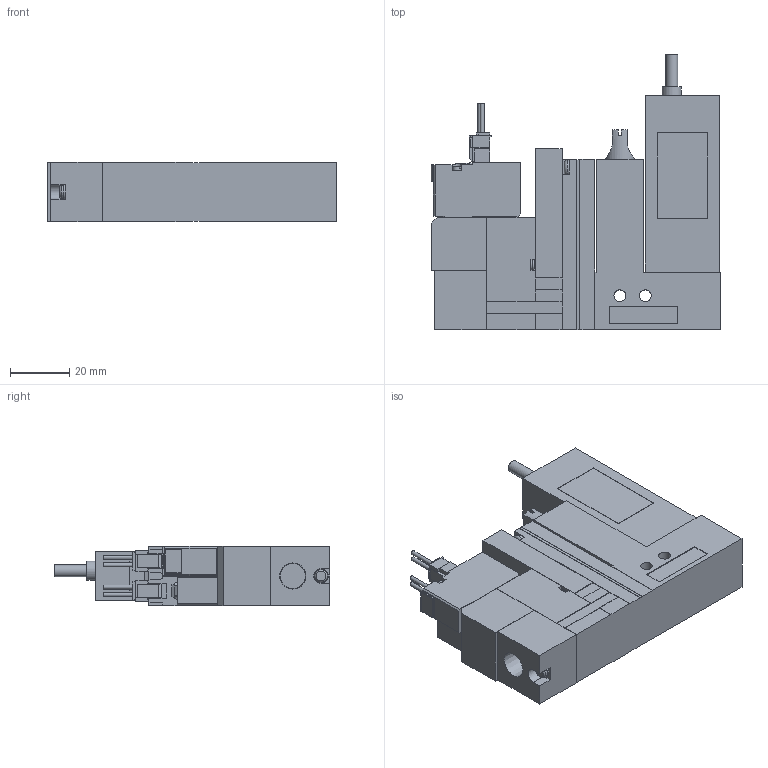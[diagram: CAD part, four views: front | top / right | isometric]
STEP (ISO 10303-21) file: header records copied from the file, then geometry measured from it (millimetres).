
FILE_DESCRIPTION(('STEP AP203'),'1');
FILE_NAME('VG_VGPLC5ALR.stp','2025-02-17T00:19:02',(' '),(' '),'Spatial InterOp 3D',' ',' ');
FILE_SCHEMA(('CONFIG_CONTROL_DESIGN'));
Length unit declared in the file: millimetre
Products named in the file (5): BMC22S※※※※VG_VGPLC5ALR; Solenoid valve A; Pressure sensor VGLC; Unit LC; Base SR10R
Assembly tree (4 placements, depth 2):
  BMC22S※※※※VG_VGPLC5ALR
    Solenoid valve A
    Pressure sensor VGLC
    Unit LC
    Base SR10R
Bounding box: 97.6 x 93 x 20 mm (x, y, z)
Volume: 112451.8 mm3; surface area: 28499.8 mm2
Topology: 4 solids, 4 shells, 418 faces, 1108 edges, 729 vertices
Faces by surface type: plane 358, cylinder 49, cone 6, torus 5
Full cylindrical faces by diameter (mm): 1.4 x4, 2.5 x3, 3 x4, 3.5 x4, 3.6 x1, 4 x6, 4.134 x1, 6 x1, 6.5 x1
Entity records: 12879 total; most frequent: CARTESIAN_POINT 2349, ORIENTED_EDGE 2118, DIRECTION 2035, EDGE_CURVE 1059, LINE 917, VECTOR 917, VERTEX_POINT 717, AXIS2_PLACEMENT_3D 559
